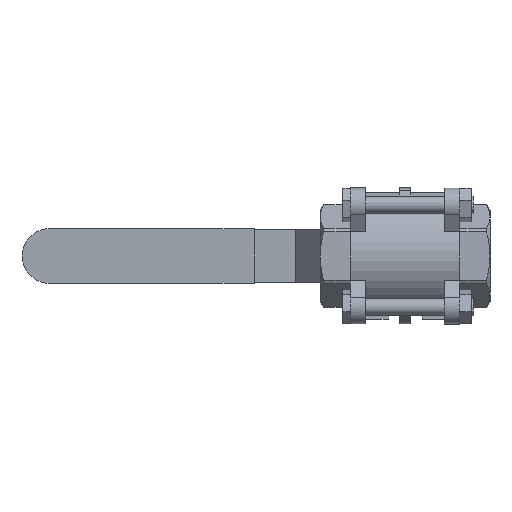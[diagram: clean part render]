
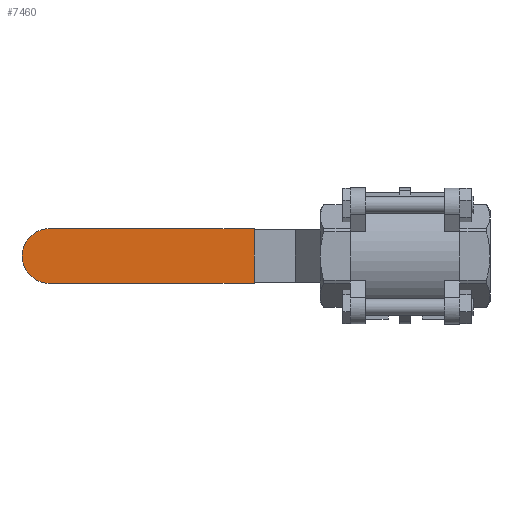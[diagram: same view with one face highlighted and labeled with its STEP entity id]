
A CAD part, front view. The second image highlights one B-rep face of the part: STEP entity #7460.
In plain terms, the highlighted planar face has unit normal (0, -1, 0).
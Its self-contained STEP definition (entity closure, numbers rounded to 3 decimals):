
#416 = DIRECTION ( 'NONE',  ( 0., 0., 1. ) ) ;
#506 = DIRECTION ( 'NONE',  ( 0., 1., 0. ) ) ;
#647 = EDGE_CURVE ( 'NONE', #6380, #1419, #7873, .T. ) ;
#910 = AXIS2_PLACEMENT_3D ( 'NONE', #9089, #5815, #1222 ) ;
#1026 = EDGE_CURVE ( 'NONE', #5022, #9739, #2365, .T. ) ;
#1222 = DIRECTION ( 'NONE',  ( 0., 0., 1. ) ) ;
#1419 = VERTEX_POINT ( 'NONE', #2939 ) ;
#1862 = VECTOR ( 'NONE', #3132, 1000. ) ;
#2365 = LINE ( 'NONE', #4110, #4157 ) ;
#2471 = CARTESIAN_POINT ( 'NONE',  ( -203., 83.5, -14.5 ) ) ;
#2796 = CARTESIAN_POINT ( 'NONE',  ( -188.5, 83.5, 0. ) ) ;
#2939 = CARTESIAN_POINT ( 'NONE',  ( -188.5, 83.5, 14.5 ) ) ;
#3029 = AXIS2_PLACEMENT_3D ( 'NONE', #2796, #506, #416 ) ;
#3132 = DIRECTION ( 'NONE',  ( -1., 0., 0. ) ) ;
#3145 = FACE_OUTER_BOUND ( 'NONE', #4144, .T. ) ;
#3230 = DIRECTION ( 'NONE',  ( 1., 0., 0. ) ) ;
#3543 = LINE ( 'NONE', #2471, #5354 ) ;
#3844 = ORIENTED_EDGE ( 'NONE', *, *, #4899, .T. ) ;
#4097 = CARTESIAN_POINT ( 'NONE',  ( -80., 83.5, 14.5 ) ) ;
#4110 = CARTESIAN_POINT ( 'NONE',  ( -80., 83.5, 138.102 ) ) ;
#4144 = EDGE_LOOP ( 'NONE', ( #5420, #5668, #3844, #5911 ) ) ;
#4157 = VECTOR ( 'NONE', #9774, 1000. ) ;
#4365 = LINE ( 'NONE', #10325, #1862 ) ;
#4899 = EDGE_CURVE ( 'NONE', #6380, #9739, #3543, .T. ) ;
#5022 = VERTEX_POINT ( 'NONE', #4097 ) ;
#5107 = CARTESIAN_POINT ( 'NONE',  ( -188.5, 83.5, -14.5 ) ) ;
#5354 = VECTOR ( 'NONE', #3230, 1000. ) ;
#5420 = ORIENTED_EDGE ( 'NONE', *, *, #5715, .T. ) ;
#5668 = ORIENTED_EDGE ( 'NONE', *, *, #647, .F. ) ;
#5715 = EDGE_CURVE ( 'NONE', #5022, #1419, #4365, .T. ) ;
#5815 = DIRECTION ( 'NONE',  ( 0., 1., 0. ) ) ;
#5911 = ORIENTED_EDGE ( 'NONE', *, *, #1026, .F. ) ;
#6380 = VERTEX_POINT ( 'NONE', #5107 ) ;
#6623 = CARTESIAN_POINT ( 'NONE',  ( -80., 83.5, -14.5 ) ) ;
#7460 = ADVANCED_FACE ( 'NONE', ( #3145 ), #9913, .F. ) ;
#7873 = CIRCLE ( 'NONE', #3029, 14.5 ) ;
#9089 = CARTESIAN_POINT ( 'NONE',  ( -203., 83.5, 138.102 ) ) ;
#9739 = VERTEX_POINT ( 'NONE', #6623 ) ;
#9774 = DIRECTION ( 'NONE',  ( 0., 0., -1. ) ) ;
#9913 = PLANE ( 'NONE',  #910 ) ;
#10325 = CARTESIAN_POINT ( 'NONE',  ( -203., 83.5, 14.5 ) ) ;
